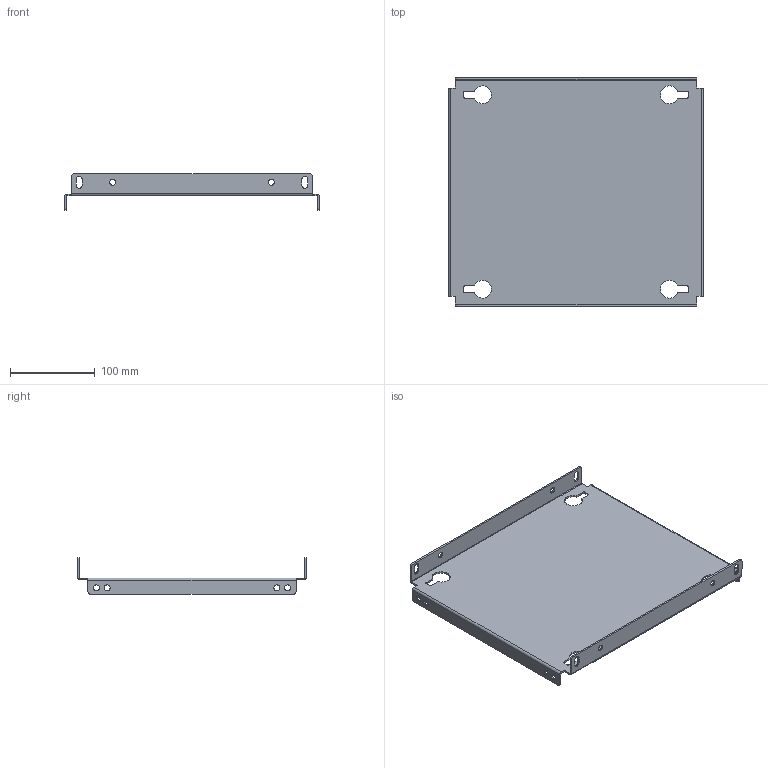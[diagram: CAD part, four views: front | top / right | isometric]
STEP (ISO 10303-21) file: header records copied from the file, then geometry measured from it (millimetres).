
FILE_DESCRIPTION (( 'STEP AP203' ), '1' );
FILE_NAME ('R5PPS3004.STEP', '2021-12-20T06:42:08', ( '' ), ( '' ), 'SwSTEP 2.0', 'SolidWorks 2020', '' );
FILE_SCHEMA (( 'CONFIG_CONTROL_DESIGN' ));
Length unit declared in the file: millimetre
Products named in the file (1): R5PPS3004
Bounding box: 300 x 269 x 43 mm (x, y, z)
Volume: 197887.9 mm3; surface area: 201990.8 mm2
Topology: 1 solids, 1 shells, 132 faces, 358 edges, 228 vertices
Faces by surface type: cylinder 74, plane 58
Entity records: 4331 total; most frequent: DIRECTION 772, CARTESIAN_POINT 719, ORIENTED_EDGE 716, EDGE_CURVE 358, AXIS2_PLACEMENT_3D 281, VERTEX_POINT 228, VECTOR 210, LINE 210
